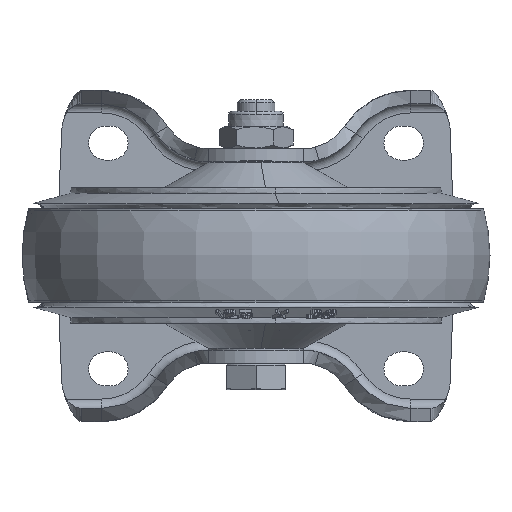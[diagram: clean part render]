
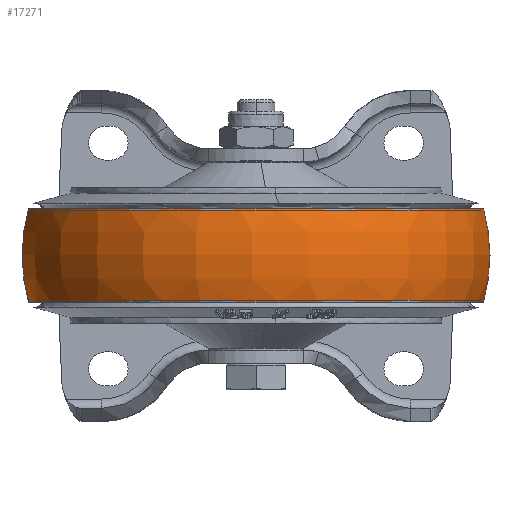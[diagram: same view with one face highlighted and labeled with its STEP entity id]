
A CAD part, front view. The second image highlights one B-rep face of the part: STEP entity #17271.
In plain terms, the highlighted toroidal (fillet/blend) face has major radius 20.875 mm and minor radius 41.625 mm.
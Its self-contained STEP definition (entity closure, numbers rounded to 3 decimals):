
#91 = FACE_OUTER_BOUND ( 'NONE', #39786, .T. ) ;
#489 = TOROIDAL_SURFACE ( 'NONE', #48400, 20.875, 41.625 ) ;
#4712 = CARTESIAN_POINT ( 'NONE',  ( 12.452, 0., 0. ) ) ;
#4847 = EDGE_CURVE ( 'NONE', #13596, #20582, #11875, .T. ) ;
#7635 = CARTESIAN_POINT ( 'NONE',  ( -12.452, 0., 0. ) ) ;
#8149 = CIRCLE ( 'NONE', #16401, 41.625 ) ;
#8336 = DIRECTION ( 'NONE',  ( 0., 1., 0. ) ) ;
#11116 = DIRECTION ( 'NONE',  ( 0., -1., 0. ) ) ;
#11875 = CIRCLE ( 'NONE', #34160, 60.594 ) ;
#12007 = CARTESIAN_POINT ( 'NONE',  ( 0., 0., 0. ) ) ;
#13596 = VERTEX_POINT ( 'NONE', #27326 ) ;
#15116 = EDGE_CURVE ( 'NONE', #20582, #20697, #49995, .T. ) ;
#15371 = AXIS2_PLACEMENT_3D ( 'NONE', #26364, #11116, #49622 ) ;
#16401 = AXIS2_PLACEMENT_3D ( 'NONE', #28459, #8336, #25102 ) ;
#17271 = ADVANCED_FACE ( 'NONE', ( #91 ), #489, .T. ) ;
#20582 = VERTEX_POINT ( 'NONE', #20809 ) ;
#20697 = VERTEX_POINT ( 'NONE', #41476 ) ;
#20809 = CARTESIAN_POINT ( 'NONE',  ( -12.452, 0., -60.594 ) ) ;
#23640 = DIRECTION ( 'NONE',  ( 0., 0., -1. ) ) ;
#24364 = DIRECTION ( 'NONE',  ( -1., 0., 0. ) ) ;
#24575 = ORIENTED_EDGE ( 'NONE', *, *, #47045, .T. ) ;
#25102 = DIRECTION ( 'NONE',  ( 0., 0., 1. ) ) ;
#26027 = ORIENTED_EDGE ( 'NONE', *, *, #31797, .F. ) ;
#26364 = CARTESIAN_POINT ( 'NONE',  ( 0., 0., -20.875 ) ) ;
#27326 = CARTESIAN_POINT ( 'NONE',  ( -12.452, 0., 60.594 ) ) ;
#28459 = CARTESIAN_POINT ( 'NONE',  ( 0., 0., 20.875 ) ) ;
#29036 = ORIENTED_EDGE ( 'NONE', *, *, #4847, .T. ) ;
#31108 = CARTESIAN_POINT ( 'NONE',  ( 12.452, 0., 60.594 ) ) ;
#31797 = EDGE_CURVE ( 'NONE', #13596, #50460, #8149, .T. ) ;
#32022 = ORIENTED_EDGE ( 'NONE', *, *, #15116, .T. ) ;
#32408 = CIRCLE ( 'NONE', #34100, 60.594 ) ;
#34100 = AXIS2_PLACEMENT_3D ( 'NONE', #4712, #24364, #43517 ) ;
#34160 = AXIS2_PLACEMENT_3D ( 'NONE', #7635, #51043, #43039 ) ;
#35272 = DIRECTION ( 'NONE',  ( 1., 0., 0. ) ) ;
#39786 = EDGE_LOOP ( 'NONE', ( #26027, #29036, #32022, #24575 ) ) ;
#41476 = CARTESIAN_POINT ( 'NONE',  ( 12.452, 0., -60.594 ) ) ;
#43039 = DIRECTION ( 'NONE',  ( 0., 0., -1. ) ) ;
#43517 = DIRECTION ( 'NONE',  ( 0., 0., 1. ) ) ;
#47045 = EDGE_CURVE ( 'NONE', #20697, #50460, #32408, .T. ) ;
#48400 = AXIS2_PLACEMENT_3D ( 'NONE', #12007, #35272, #23640 ) ;
#49622 = DIRECTION ( 'NONE',  ( 0., 0., -1. ) ) ;
#49995 = CIRCLE ( 'NONE', #15371, 41.625 ) ;
#50460 = VERTEX_POINT ( 'NONE', #31108 ) ;
#51043 = DIRECTION ( 'NONE',  ( 1., 0., 0. ) ) ;
